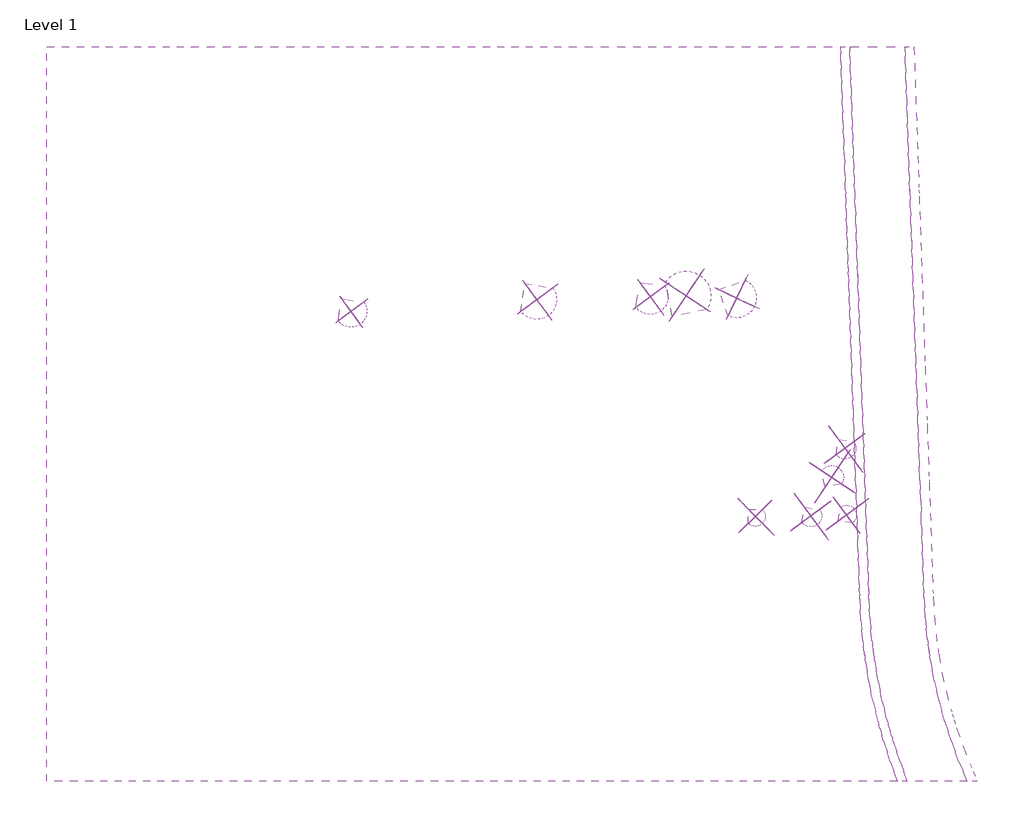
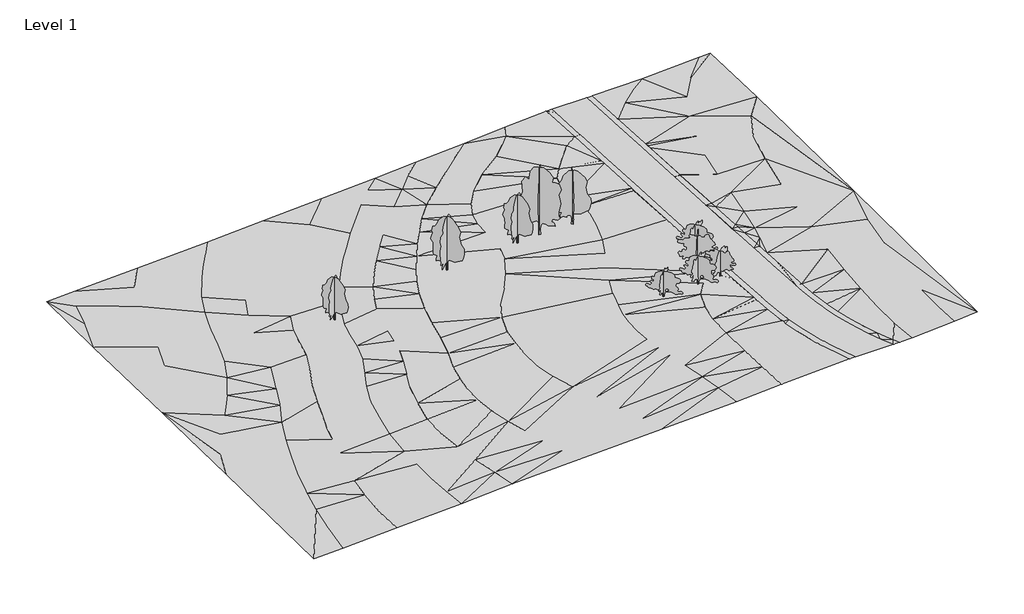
# One storey: 10 geographic elements, 4 proxies.
"""IFC4 building model written with IfcOpenShell, lengths in millimetres."""

from ifc_helpers import new_model, si_unit, origin, place, context, project, spatial, triangles, transform, mapped, element, save
from components import rpc_tree_deciduous1_hawthorn_5_meters_61e68b76, rpc_tree_deciduous1_hawthorn_5_5_meters_b1aece7a, rpc_tree_deciduous1_hawthorn_6_meters_6ab4ff8a, rpc_tree_deciduous1_red_ash_10_meters_1bd7eb3f, rpc_tree_deciduous1_red_ash_12_5_meters_90b8b03f, rpc_tree_deciduous1_red_ash_8_meters_67bd5bca, rpc_tree_deciduous1_red_ash_9_meters_4b385689

model = new_model("IFC4")

# Units and contexts
model_context = context("Model", 3, world=origin())
ifc_project = project(units=[si_unit("LENGTHUNIT", "METRE", prefix="MILLI")], contexts=[model_context])

# Site, building, storey
site = spatial("IfcSite", under=ifc_project)
building = spatial("IfcBuilding", under=site)
storey = spatial("IfcBuildingStorey", under=building, Name="Level 1", Elevation=0.0)

# Proxies
placement = place(None, origin())
element("IfcBuildingElementProxy", 1, Name="Building Element Proxy", at=placement, inside=storey, context=model_context, shape_type="Tessellation", body=[
    triangles([(182117.2744629, 46230.1781616, 47499.9983276), (172249.6721191, 46230.1781616, 47000.0009399), (163630.5331055, 46230.1781616, 46900.0907593), (163630.6075195, 46228.0155029, 46900.1279663), (163630.8679688, 46220.4113159, 46900.2395874), (163881.6991699, 39037.7753174, 47000.0009399), (163881.7549805, 39035.9661255, 47000.0660522), (163885.9035645, 38917.5477722, 47001.4101562), (164154.7243652, 31219.3851013, 47092.5720337), (164176.2300293, 30603.3738647, 47099.9994873), (164200.2657715, 29915.1135498, 47107.5478638), (164494.5919922, 21486.6628967, 47199.9980347), (164498.8708008, 21364.2494385, 47201.3700439), (164806.3683105, 12558.5706482, 47300.0012329), (164846.4402832, 11411.140686, 47351.4957642), (165037.4239746, 5942.0820694, 47427.0911499), (165063.524707, 5194.9823227, 47401.8740845), (165066.9477539, 5096.605188, 47402.7251953), (165071.7102539, 4960.3611786, 47404.2971924), (165133.2878906, 3196.7682449, 47446.6341431), (165248.6296875, -106.211295, 47499.9983276), (165278.4325195, -959.3139736, 47499.9983276), (165286.1901855, -1181.6030943, 47504.207373), (165350.0560547, -3010.286895, 47538.8331665), (165461.3608887, -6197.8402954, 47603.3083008), (165463.2212402, -6251.2963348, 47603.7315308), (165696.7697754, -12939.0369598, 47700.0698364), (165696.8255859, -12940.421759, 47700.0791382), (165696.8813965, -12941.9844543, 47700.0837891), (165698.1092285, -12977.4322906, 47700.5674805), (165721.7170898, -13653.3038269, 47710.8366211), (165836.0356934, -15732.4897064, 47742.5091064), (166033.5120117, -17805.431781, 47774.2606567), (166238.0762695, -19311.1468506, 47797.4452881), (166260.605127, -19477.0971863, 47800.2637207), (166261.7027344, -19485.1699493, 47800.3102295), (166274.1112793, -19576.3888, 47801.2869141), (166313.8297852, -19868.8035095, 47805.0727295), (166676.5239258, -21919.2992798, 47831.7548218), (167121.0363281, -23953.6309204, 47858.3764526), (167646.6228516, -25968.5335144, 47884.8911133), (167814.2033203, -26519.6115051, 47892.1883423), (167986.9741699, -27087.755896, 47900.9273438), (168003.791748, -27143.0153137, 47901.3040649), (168252.4649414, -27960.7770264, 47912.3871094), (168937.5952148, -29927.1686279, 47940.7156128), (169700.8788574, -31864.5526978, 47970.3231079), (170086.2878906, -32738.4551697, 47984.4710815), (170538.3533203, -33763.5135315, 47980.0294922), (170541.1438477, -33769.8247742, 47980.0480957), (172717.2342773, -33769.8247742, 48000.0003662), (180024.0254883, -33769.8247742, 48499.9977539), (184023.1488281, -33769.8247742, 48799.9980469), (184023.1488281, 3211.2077705, 48499.9977539), (184023.1488281, 32392.239093, 48000.0003662), (184023.1488281, 46230.1781616, 47600.0015259), (148453.4874023, 46230.1781616, 46499.9989014), (141358.3669922, 46230.1781616, 46000.0015137), (133069.7101318, 46230.1781616, 45499.9994751), (126039.7020264, 46230.1781616, 45000.0020874), (116711.0900391, 46230.1781616, 44500.0000488), (106679.4325928, 46230.1781616, 43999.9980103), (97056.6432129, 46230.1781616, 43500.0006226), (84931.3554199, 46230.1781616, 42999.998584), (74125.8475342, 46230.1781616, 42500.0011963), (69223.1560913, 46230.1781616, 42350.0010498), (69223.1560913, 32170.7502869, 42500.0011963), (69223.1560913, 11625.752005, 42999.998584), (69223.1560913, -7645.5914612, 43500.0006226), (69223.1560913, -33769.8247742, 43829.9990845), (74292.9768677, -33769.8247742, 43999.9980103), (83601.77146, -33769.8247742, 44500.0000488), (94733.2966553, -33769.8247742, 45000.0020874), (103594.439502, -33769.8247742, 45499.9994751), (115168.7190674, -33769.8247742, 46000.0015137), (129313.4277832, -33769.8247742, 46499.9989014), (142352.1481934, -33769.8247742, 47000.0009399), (150073.6861816, -33769.8247742, 47499.9983276), (161838.698291, -33769.8247742, 47980.0015869), (161841.8608887, -33769.8247742, 47980.0015869), (161836.1124023, -33754.3047913, 47979.7922974), (161810.4581543, -33685.2020325, 47978.8249146), (161054.9693848, -31649.347229, 47947.4361328), (160348.5380859, -29500.7202393, 47918.0146729), (159938.8328613, -28075.6537354, 47900.9040894), (159919.9688965, -28010.008905, 47900.0018188), (159915.838916, -27995.6702454, 47899.8157837), (159909.1416504, -27972.3274841, 47899.5274292), (159723.6087891, -27326.9947815, 47889.6164063), (159181.0372559, -25131.2613647, 47859.1810547), (158721.604834, -22916.6384033, 47831.7222656), (158345.98125, -20686.2722168, 47807.2865479), (158275.4367188, -20143.1076965, 47802.1101196), (158253.2613281, -19972.3739319, 47799.9986206), (158244.6106934, -19905.8059021, 47799.0172852), (158220.4447266, -19719.6800537, 47796.3104736), (158054.6687988, -18443.3335419, 47775.5861572), (157848.1139648, -16191.0093933, 47741.8021729), (157726.5771973, -13932.5007385, 47710.6970947), (157697.4999023, -13099.6934326, 47699.7349731), (157697.3138672, -13094.1472595, 47699.7256714), (157697.1464355, -13089.6114899, 47699.7070679), (157696.9231934, -13083.1281647, 47699.6466064), (157671.6410156, -12359.3072296, 47688.9402832), (157465.5140625, -6456.4826477, 47600.0015259), (157293.6919922, -1536.0914131, 47499.9983276), (157067.5662598, 4939.1229401, 47399.9997803), (156814.3352051, 12190.8372803, 47300.0012329), (156494.4291504, 21351.9292603, 47199.9980347), (156469.0353516, 22078.854657, 47192.1380493), (156198.2611816, 29833.1139038, 47108.5478027), (156170.7837891, 30620.0984253, 47099.9111206), (156170.6907715, 30622.5773438, 47099.9111206), (156170.6163574, 30624.7655823, 47099.9018188), (156170.5233398, 30627.2003174, 47099.8785645), (156170.3187012, 30633.0325195, 47099.8134521), (156169.8350098, 30646.9060913, 47099.6460205), (155906.8092041, 38179.062616, 47000.0009399), (155906.0557617, 38200.6705994, 46999.038208), (155625.7844971, 46226.5876831, 46899.3094116), (155625.6635742, 46230.1781616, 46899.2024414), (139012.2590332, -5680.5497772, 47000.0009399), (138746.1729492, -8022.9195923, 47000.0009399), (122048.280542, -260.3460274, 46499.9989014), (121658.3136475, -3479.4847092, 46499.9989014), (121507.7460938, -6291.8206055, 46499.9989014), (121536.3583008, -10262.2352325, 46499.9989014), (131264.5086914, 16491.2782745, 46499.9989014), (132050.2932861, 19091.5718811, 46499.9989014), (132408.3551514, 21605.0719482, 46499.9989014), (122152.711377, -13713.7594391, 46499.9989014), (110791.7211182, -3624.0514664, 46000.0015137), (110225.5696289, -6685.8029526, 46000.0015137), (109838.1700195, -9294.3036163, 46000.0015137), (109699.6203369, -12781.1919434, 46000.0015137), (110096.5356445, -16262.3713165, 46000.0015137), (117248.5549072, 18574.6836639, 46000.0015137), (118772.7874512, 21243.6916809, 46000.0015137), (147840.9759521, 19642.9940369, 47000.0009399), (147938.0677002, 21869.7627686, 47000.0009399), (155324.3889404, -2894.3494949, 47499.9983276), (153090.7857422, -5188.9169952, 47499.9983276), (151344.3062988, -7474.7989792, 47499.9983276), (111315.7356445, 21255.17005, 45499.9994751), (108873.094043, 16003.3510803, 45499.9994751), (107469.1611328, 10228.9105225, 45499.9994751), (132278.8560791, 23876.7402649, 46499.9989014), (109755.0867187, 18313.0054504, 45499.9994751), (104042.6912109, 18113.5246033, 45000.0020874), (102365.7424072, 12727.590564, 45000.0020874), (100885.3025391, 6397.4147415, 45000.0020874), (97818.1688232, -98.9607928, 45000.0020874), (96368.1736084, -3846.6114281, 45000.0020874), (95423.0778076, -8168.6961594, 45000.0020874), (94576.2922852, -12612.0662201, 45000.0020874), (100985.1941162, -12802.3941376, 45499.9994751), (101832.7888916, -8412.5772034, 45499.9994751), (103010.6704834, -4084.4192963, 45499.9994751), (105432.6807861, 2142.8228382, 45499.9994751), (106970.4101807, 7431.1266449, 45499.9994751), (108126.5907715, 13253.5038116, 45499.9994751), (97370.0008301, 21993.6459045, 44500.0000488), (95923.8007324, 18639.4645935, 44500.0000488), (94421.3994141, 12121.562439, 44500.0000488), (93089.7318604, 8716.3877289, 44500.0000488), (89794.7887939, 832.1720976, 44500.0000488), (88649.3610352, -2656.9648567, 44500.0000488), (87607.4804443, -5919.2160233, 44500.0000488), (86778.6845215, -9004.0219162, 44500.0000488), (85800.7070068, -12593.9173279, 44500.0000488), (99170.2816406, 25031.2232849, 44500.0000488), (100968.302124, 27694.5374634, 44500.0000488), (103145.5459717, 30359.6213013, 44500.0000488), (105479.3570068, 21217.2770142, 45000.0020874), (107065.9857422, 24285.9617981, 45000.0020874), (109159.1230957, 27337.9150452, 45000.0020874), (111306.7594482, 30317.6192139, 45000.0020874), (113191.3979004, 24255.6962036, 45499.9994751), (115081.4499756, 26897.139624, 45499.9994751), (117362.3154053, 29780.8077942, 45499.9994751), (120532.3358643, 24275.520575, 46000.0015137), (122275.0108887, 27077.8727783, 46000.0015137), (124013.2582764, 29560.260791, 46000.0015137), (126149.8441406, 32375.7121948, 46000.0015137), (132420.3637207, 26457.1874084, 46499.9989014), (132921.6633545, 28854.7898987, 46499.9989014), (136112.3244141, 34070.4715393, 46499.9989014), (147622.8962402, 24849.0041748, 47000.0009399), (148254.6995361, 30110.0900208, 47000.0009399), (151839.2993408, 34769.3219055, 47000.0009399), (94097.0843262, 29622.480249, 43999.9980103), (92437.1856445, 25991.1112061, 43999.9980103), (90937.016748, 21670.8958374, 43999.9980103), (89811.7365967, 16848.1216095, 43999.9980103), (88606.3590088, 12577.6264618, 43999.9980103), (86469.8661621, 7312.0798416, 43999.9980103), (87550.4420654, 30561.8973267, 43500.0006226), (86171.5029785, 26508.5052063, 43500.0006226), (85024.6241455, 22198.7450134, 43500.0006226), (81906.7214355, 14084.3868164, 43500.0006226), (78422.0597168, 32362.5013733, 42999.998584), (89098.8126709, 34227.6084595, 43500.0006226), (96179.5990723, 32959.8997925, 43999.9980103), (84844.4304932, 3304.3366791, 43999.9980103), (85059.4871338, -16148.9387054, 44500.0000488), (91257.1181396, 4755.2585815, 44500.0000488), (95118.2312988, 15294.6652679, 44500.0000488), (105280.2714844, 33284.5427673, 44500.0000488), (99341.257251, 3092.1057381, 45000.0020874), (94205.9241943, -17608.8112244, 45000.0020874), (100926.2023682, -16962.8041443, 45499.9994751), (106365.0703857, 4810.6243881, 45499.9994751), (104185.3429688, -1087.7162378, 45499.9994751), (119370.7230469, 32216.8823547, 45499.9994751), (113404.5197754, 32817.1619934, 45000.0020874), (134107.1165771, 31376.6336426, 46499.9989014), (123425.9824951, -17508.4324677, 46499.9989014), (138649.12771, -10283.9397217, 47000.0009399), (139241.9194336, -15749.0666016, 47000.0009399), (139735.5637207, -18273.7857513, 47000.0009399), (138869.4026367, -12920.3543793, 47000.0009399), (149766.300293, -13871.0696045, 47499.9983276), (149683.4867432, -18054.7084259, 47499.9983276), (150219.4354248, -10741.6466675, 47499.9983276), (103065.5229492, 15698.726651, 45000.0020874), (101859.3919189, 9780.2239563, 45000.0020874), (123264.0574951, 3541.9742088, 46499.9989014), (165325.6296387, -959.3139736, 47499.9983276), (164822.6463867, 12558.5706482, 47300.0012329), (164508.2655762, 21486.6628967, 47199.9980347), (164256.783252, 30603.3738647, 47099.9994873), (166417.190918, 973.8398312, 47499.9983276), (167054.5659668, 3567.2546425, 47499.9983276), (167798.967041, 8102.0711563, 47499.9983276), (157377.7612793, -6459.1673676, 47600.0015259), (156410.2482422, 21356.8847717, 47199.9980347), (147175.8351563, 16590.4478027, 47000.0009399), (144598.1692383, 9569.7245956, 47000.0009399), (140476.5138428, 9.1223123, 47000.0009399), (142901.4541992, 6276.7378052, 47000.0009399), (141620.4161133, 3145.7989723, 47000.0009399), (139634.7512695, -3032.7102356, 47000.0009399), (146093.4919189, 12897.7011108, 47000.0009399), (125036.3772217, 6906.2790298, 46499.9989014), (127386.5779541, 9885.000119, 46499.9989014), (129498.7001953, 13044.9607269, 46499.9989014), (115980.8648438, 15569.5775574, 46000.0015137), (114827.1864258, 11958.5491333, 46000.0015137), (113013.1762207, 4032.326255, 46000.0015137), (111999.7031982, 25.9504872, 46000.0015137), (113804.6069824, 8062.4846191, 46000.0015137), (111795.5854248, -23264.5450745, 46000.0015137), (112847.0747314, -26913.4456055, 46000.0015137), (110925.2106445, -19907.4964966, 46000.0015137), (113980.5404297, -30542.1124878, 46000.0015137), (128621.7955811, 35177.9876587, 46000.0015137), (132025.3459717, 38297.8018799, 46000.0015137), (135291.7047363, 41101.3563354, 46000.0015137), (138363.8614014, 43663.0418335, 46000.0015137), (124886.8421631, -21691.7736328, 46499.9989014), (126512.4452637, -26000.0013611, 46499.9989014), (128027.5899902, -30066.3601318, 46499.9989014), (139260.0206543, 37164.6640686, 46499.9989014), (143534.8853027, 40280.4203979, 46499.9989014), (145633.7711426, 42268.8339111, 46499.9989014), (147401.2446533, 44146.7797485, 46499.9989014), (101362.4269043, -21233.1365112, 45499.9994751), (101938.7824219, -25555.7726624, 45499.9994751), (102826.9607666, -29782.351886, 45499.9994751), (121815.0296631, 35066.7990967, 45499.9994751), (124466.2445801, 37828.4840149, 45499.9994751), (127759.3272949, 41142.507312, 45499.9994751), (130300.0745361, 43793.722229, 45499.9994751), (115662.9121582, 35651.1029663, 45000.0020874), (118405.0982666, 38683.8318054, 45000.0020874), (120784.1251465, 41316.5618042, 45000.0020874), (123544.2171387, 44113.4887573, 45000.0020874), (94118.0039795, -21487.9697937, 45000.0020874), (94118.0039795, -25739.507959, 45000.0020874), (94401.8936279, -29995.7760681, 45000.0020874), (107548.5330322, 36003.7302795, 44500.0000488), (109502.6463135, 38426.077771, 44500.0000488), (111856.7630859, 41215.4842529, 44500.0000488), (114529.6976074, 43971.9485596, 44500.0000488), (84208.5995361, -19925.5442322, 44500.0000488), (83773.3051758, -23886.7070984, 44500.0000488), (83406.2485107, -28814.9318665, 44500.0000488), (98298.9859863, 35967.4138916, 43999.9980103), (100568.5404785, 38835.9481018, 43999.9980103), (102765.4668457, 41686.5810791, 43999.9980103), (104871.8592041, 44120.3348511, 43999.9980103), (82819.4843262, -711.7771208, 43999.9980103), (81029.9749512, -5098.2132294, 43999.9980103), (79595.1881104, -9175.1864685, 43999.9980103), (78069.8765625, -13823.7678406, 43999.9980103), (76852.9973511, -18691.2765472, 43999.9980103), (75908.757312, -22903.0299316, 43999.9980103), (75037.1453979, -28096.8803467, 43999.9980103), (91259.6668213, 37907.6396484, 43500.0006226), (93238.69021, 40921.4417358, 43500.0006226), (95272.4451416, 43718.368689, 43500.0006226), (83724.6476807, 18041.7045685, 43500.0006226), (79638.218042, 10107.7109436, 43500.0006226), (76641.2893433, 5749.6653259, 43500.0006226), (73667.3917969, 1803.7749287, 43500.0006226), (71014.711853, -2643.7819405, 43500.0006226), (72866.8220581, 16917.7778229, 42999.998584), (75697.1004639, 22105.0716614, 42999.998584), (77359.9059448, 26855.1677673, 42999.998584), (79979.7227783, 37623.9592896, 42999.998584), (82030.9371094, 42099.6674927, 42999.998584), (72338.7891724, 42761.3154785, 42500.0011963), (71199.9749634, 38248.3862915, 42500.0011963), (140419.6335938, -21740.9008667, 47000.0009399), (141164.4532471, -25583.2430786, 47000.0009399), (141801.3911133, -29329.528363, 47000.0009399), (153735.2208252, 36766.5395325, 47000.0009399), (158240.0714355, -19973.6436218, 47799.9986206), (159917.0853516, -28010.4832947, 47900.0018188), (149653.8327393, -23575.5702759, 47499.9983276), (149896.6458252, -28469.3506348, 47499.9983276), (168587.7188965, 13306.1773407, 47499.9983276), (170039.5744629, 23683.049762, 47499.9983276), (169155.7772461, 18414.9352753, 47499.9983276), (171344.1832031, 28572.5280579, 47499.9983276), (175340.8694824, 38312.6567871, 47499.9983276), (178345.3930664, 42304.6270752, 47499.9983276), (173120.9305664, 33638.9490417, 47499.9983276), (172329.0719238, -29156.199408, 48000.0003662), (172309.3521973, -24024.2173096, 48000.0003662), (172858.1187012, -13206.5334229, 48000.0003662), (172501.4707031, -18717.3458862, 48000.0003662), (173398.9973145, -7374.5498657, 48000.0003662), (174959.5904297, 4539.1915375, 48000.0003662), (175804.5249023, 10811.4924042, 48000.0003662), (174191.1164063, -1059.7963577, 48000.0003662), (177041.4726562, 17767.1248169, 48000.0003662), (178454.8189453, 23723.2077759, 48000.0003662), (180883.861377, 28559.1335266, 48000.0003662), (179805.1365234, -29339.878894, 48499.9977539), (179813.3034668, -24185.4167725, 48499.9977539), (180302.5573242, -18141.6938141, 48499.9977539), (181191.8239746, -10941.3065735, 48499.9977539), (182127.0041016, -4262.3950607, 48499.9977539), (166964.4877441, 42140.6510376, 47000.0009399), (169747.4806641, 44514.3387085, 47000.0009399), (147549.0681885, 27623.1953064, 47000.0009399), (149695.9324951, 32201.0321594, 47000.0009399)], [[70, 71, 298], [298, 72, 287], [72, 298, 71], [286, 287, 279], [298, 287, 297], [70, 298, 297], [70, 297, 69], [296, 297, 286], [294, 295, 170], [296, 205, 295], [286, 285, 296], [69, 296, 295], [297, 287, 286], [69, 297, 296], [287, 72, 280], [69, 295, 294], [286, 278, 285], [286, 279, 278], [278, 279, 267], [210, 278, 267], [279, 287, 280], [280, 268, 279], [72, 73, 280], [285, 278, 210], [170, 155, 169], [210, 170, 205], [170, 169, 294], [170, 295, 205], [210, 211, 155], [267, 211, 210], [154, 155, 156], [210, 155, 170], [205, 285, 210], [169, 155, 154], [280, 73, 269], [205, 296, 285], [294, 169, 293], [69, 306, 68], [69, 294, 306], [293, 168, 292], [306, 294, 293], [204, 292, 166], [306, 293, 305], [168, 293, 169], [305, 293, 292], [68, 305, 304], [305, 68, 306], [305, 292, 304], [68, 304, 303], [303, 204, 196], [204, 303, 304], [206, 196, 204], [200, 303, 196], [292, 204, 304], [307, 68, 303], [167, 292, 168], [206, 204, 166], [166, 167, 153], [154, 157, 153], [153, 158, 152], [153, 152, 166], [154, 153, 167], [167, 168, 154], [166, 152, 206], [196, 165, 195], [196, 206, 165], [165, 206, 209], [195, 165, 164], [165, 151, 164], [151, 165, 209], [209, 152, 213], [164, 151, 226], [206, 152, 209], [194, 195, 164], [209, 159, 151], [166, 292, 167], [169, 154, 168], [195, 200, 196], [156, 155, 211], [254, 267, 268], [268, 267, 279], [253, 268, 269], [269, 268, 280], [255, 269, 74], [268, 253, 252], [73, 74, 269], [254, 268, 252], [156, 135, 157], [156, 211, 135], [157, 135, 134], [158, 153, 157], [136, 131, 135], [135, 127, 134], [211, 136, 135], [254, 131, 136], [267, 254, 136], [133, 157, 134], [254, 252, 217], [136, 211, 267], [261, 253, 255], [255, 253, 269], [75, 76, 262], [315, 261, 262], [255, 75, 261], [255, 74, 75], [262, 261, 75], [218, 127, 131], [127, 135, 131], [131, 254, 217], [221, 218, 131], [219, 217, 260], [261, 260, 253], [261, 220, 260], [131, 217, 221], [252, 260, 217], [134, 127, 133], [262, 76, 316], [253, 260, 252], [127, 123, 126], [213, 159, 209], [213, 158, 132], [213, 132, 159], [132, 158, 133], [132, 133, 126], [212, 159, 250], [158, 157, 133], [159, 212, 151], [150, 226, 146], [151, 212, 160], [226, 151, 160], [226, 150, 164], [160, 251, 146], [161, 146, 248], [146, 161, 150], [160, 146, 226], [160, 212, 249], [207, 164, 150], [159, 132, 250], [152, 158, 213], [132, 125, 250], [125, 132, 126], [125, 122, 124], [227, 124, 242], [250, 124, 249], [125, 124, 250], [125, 126, 122], [249, 124, 227], [251, 244, 248], [251, 249, 227], [251, 248, 146], [251, 160, 249], [247, 244, 245], [239, 244, 227], [239, 245, 244], [244, 247, 248], [227, 244, 251], [161, 248, 145], [245, 241, 246], [249, 212, 250], [133, 127, 126], [246, 137, 245], [246, 240, 128], [157, 154, 156], [225, 150, 161], [308, 307, 200], [200, 307, 303], [199, 302, 194], [302, 200, 195], [192, 193, 162], [308, 200, 302], [194, 302, 195], [193, 199, 194], [307, 308, 67], [309, 308, 199], [193, 198, 199], [198, 193, 192], [197, 198, 192], [199, 198, 309], [308, 302, 199], [201, 309, 198], [193, 194, 163], [67, 308, 309], [162, 193, 163], [163, 207, 225], [149, 148, 174], [175, 174, 144], [163, 149, 162], [225, 149, 163], [207, 150, 225], [162, 149, 174], [192, 171, 191], [192, 162, 171], [162, 174, 171], [191, 171, 172], [172, 175, 173], [172, 171, 174], [208, 173, 176], [191, 172, 203], [175, 172, 174], [203, 172, 173], [145, 149, 225], [163, 194, 207], [164, 207, 194], [191, 197, 192], [313, 67, 201], [67, 309, 201], [310, 197, 202], [197, 310, 201], [197, 191, 202], [310, 202, 311], [198, 197, 201], [313, 201, 310], [66, 313, 312], [313, 66, 67], [313, 310, 312], [66, 312, 65], [65, 311, 64], [311, 65, 312], [299, 64, 311], [310, 311, 312], [311, 202, 299], [299, 203, 288], [203, 299, 202], [288, 208, 289], [288, 203, 173], [290, 289, 281], [299, 288, 300], [191, 203, 202], [300, 288, 289], [301, 63, 64], [300, 289, 301], [63, 301, 290], [301, 64, 300], [291, 62, 63], [282, 291, 290], [283, 62, 291], [291, 63, 290], [289, 290, 301], [289, 208, 281], [299, 300, 64], [208, 288, 173], [176, 173, 175], [307, 67, 68], [144, 174, 148], [148, 145, 247], [246, 138, 137], [137, 247, 245], [144, 247, 137], [148, 247, 144], [225, 161, 145], [178, 137, 138], [177, 176, 179], [175, 144, 178], [176, 175, 178], [177, 281, 208], [137, 178, 144], [138, 179, 178], [179, 180, 177], [178, 179, 176], [179, 181, 180], [215, 177, 180], [179, 138, 181], [177, 208, 176], [181, 128, 129], [128, 181, 138], [130, 147, 181], [147, 188, 185], [186, 185, 347], [130, 181, 129], [129, 128, 243], [181, 147, 182], [214, 182, 183], [214, 180, 182], [182, 147, 183], [270, 214, 183], [186, 347, 216], [347, 187, 216], [184, 185, 186], [183, 185, 184], [147, 185, 183], [216, 256, 186], [130, 129, 237], [182, 180, 181], [128, 138, 246], [215, 180, 214], [281, 282, 290], [282, 281, 215], [214, 274, 215], [214, 270, 274], [282, 274, 283], [215, 274, 282], [281, 177, 215], [275, 274, 270], [284, 61, 62], [284, 283, 275], [61, 284, 276], [284, 62, 283], [275, 271, 276], [277, 276, 271], [276, 277, 61], [275, 276, 284], [283, 274, 275], [61, 277, 60], [271, 275, 270], [282, 283, 291], [271, 184, 256], [184, 271, 270], [216, 257, 256], [256, 184, 186], [257, 187, 258], [271, 256, 272], [187, 257, 216], [272, 256, 257], [60, 272, 273], [60, 277, 272], [272, 257, 273], [60, 273, 59], [59, 258, 259], [258, 59, 273], [263, 259, 258], [59, 259, 58], [257, 258, 273], [263, 258, 187], [272, 277, 271], [183, 184, 270], [147, 130, 188], [149, 145, 148], [145, 248, 247], [218, 123, 127], [315, 316, 321], [315, 262, 316], [77, 78, 321], [321, 90, 320], [77, 321, 316], [314, 261, 315], [315, 321, 320], [223, 314, 320], [320, 314, 315], [318, 94, 95], [92, 318, 320], [320, 318, 223], [318, 93, 94], [95, 96, 318], [321, 78, 84], [314, 220, 261], [87, 319, 86], [319, 87, 88], [319, 85, 86], [319, 321, 85], [321, 84, 85], [92, 93, 318], [91, 92, 320], [89, 90, 321], [88, 89, 319], [91, 320, 90], [319, 89, 321], [78, 83, 84], [221, 219, 222], [219, 221, 217], [223, 222, 219], [220, 314, 223], [104, 224, 222], [223, 219, 220], [260, 220, 219], [221, 222, 224], [122, 143, 242], [224, 122, 123], [239, 227, 242], [242, 124, 122], [143, 235, 142], [224, 104, 143], [242, 143, 239], [224, 143, 122], [218, 224, 123], [142, 239, 143], [222, 223, 98], [224, 218, 221], [101, 222, 100], [97, 98, 223], [96, 97, 223], [99, 222, 98], [235, 104, 105], [235, 143, 104], [142, 235, 141], [104, 222, 103], [103, 222, 102], [101, 102, 222], [100, 222, 99], [318, 96, 223], [105, 141, 235], [316, 76, 77], [83, 78, 82], [81, 79, 80], [79, 81, 82], [78, 79, 82], [330, 42, 43], [330, 41, 42], [329, 44, 45], [43, 44, 330], [329, 45, 46], [49, 50, 51], [340, 51, 52], [51, 48, 49], [340, 52, 53], [44, 329, 330], [329, 47, 48], [329, 46, 47], [329, 340, 341], [329, 48, 51], [341, 340, 53], [329, 341, 330], [51, 340, 329], [330, 341, 332], [53, 342, 341], [41, 330, 40], [331, 31, 32], [30, 31, 331], [32, 33, 332], [332, 33, 34], [333, 26, 27], [331, 27, 28], [29, 30, 331], [28, 29, 331], [26, 333, 25], [35, 332, 34], [332, 36, 37], [39, 332, 38], [38, 332, 37], [39, 40, 330], [331, 343, 333], [342, 331, 332], [333, 27, 331], [331, 32, 332], [53, 343, 342], [343, 53, 344], [343, 344, 333], [342, 343, 331], [330, 332, 39], [25, 333, 24], [341, 342, 332], [35, 36, 332], [53, 54, 344], [333, 344, 336], [241, 240, 246], [141, 240, 241], [128, 238, 243], [107, 238, 240], [108, 243, 238], [129, 243, 237], [241, 239, 142], [240, 238, 128], [139, 130, 237], [188, 347, 185], [140, 188, 130], [130, 139, 140], [140, 139, 236], [347, 188, 111], [237, 236, 139], [110, 188, 140], [243, 108, 237], [189, 187, 347], [236, 108, 109], [237, 108, 236], [108, 238, 107], [106, 107, 141], [105, 106, 141], [112, 348, 111], [111, 348, 189], [348, 112, 113], [347, 111, 189], [188, 110, 111], [110, 236, 109], [236, 110, 140], [240, 141, 107], [142, 141, 241], [189, 263, 187], [264, 58, 259], [264, 263, 348], [190, 117, 317], [117, 190, 348], [264, 190, 265], [348, 190, 264], [263, 189, 348], [265, 190, 317], [58, 265, 266], [265, 58, 264], [265, 317, 266], [58, 266, 57], [57, 120, 121], [120, 57, 266], [266, 119, 120], [266, 317, 119], [264, 259, 263], [118, 317, 117], [116, 117, 348], [116, 348, 115], [317, 118, 119], [346, 3, 4], [345, 5, 6], [345, 6, 7], [346, 4, 5], [115, 348, 114], [348, 113, 114], [245, 239, 241], [19, 233, 18], [21, 232, 20], [233, 19, 20], [22, 228, 21], [14, 15, 229], [322, 229, 15], [13, 14, 229], [233, 16, 17], [15, 16, 234], [18, 233, 17], [22, 23, 228], [23, 232, 228], [232, 23, 24], [233, 232, 336], [336, 232, 24], [54, 336, 344], [334, 336, 54], [24, 333, 336], [232, 233, 20], [322, 15, 234], [234, 233, 334], [322, 234, 335], [16, 233, 234], [54, 335, 334], [335, 54, 337], [335, 337, 322], [334, 335, 234], [233, 336, 334], [324, 229, 322], [54, 338, 337], [228, 232, 21], [324, 322, 337], [11, 12, 230], [13, 324, 230], [324, 13, 229], [11, 230, 323], [13, 230, 12], [231, 11, 325], [328, 345, 8], [231, 9, 10], [326, 346, 345], [231, 325, 9], [345, 346, 5], [8, 9, 328], [10, 11, 231], [8, 345, 7], [324, 323, 230], [328, 9, 325], [325, 323, 338], [54, 339, 338], [339, 54, 55], [325, 339, 328], [338, 339, 325], [324, 337, 323], [328, 339, 55], [346, 326, 2], [345, 328, 326], [328, 55, 326], [2, 326, 327], [327, 56, 1], [327, 326, 55], [327, 1, 2], [56, 327, 55], [325, 11, 323], [337, 338, 323], [346, 2, 3], [122, 126, 123]], closed=False),
])
element("IfcBuildingElementProxy", 2, Name="Building Element Proxy", at=placement, inside=storey, context=model_context, shape_type="Tessellation", body=[
    triangles([(162611.5999512, 46230.1781616, 46899.9977417), (156629.8069336, 46230.1781616, 46899.9977417), (156626.2722656, 46230.1781616, 46899.9977417), (156663.014209, 45178.1307495, 46913.3039063), (156902.3484375, 38324.3328186, 47000.0009399), (156903.4460449, 38292.9951965, 47000.3776611), (157174.1644043, 30540.6683899, 47099.9994873), (157492.3217285, 21429.8221802, 47198.5841675), (157496.8237793, 21300.741687, 47199.9980347), (157501.288623, 21172.9704163, 47201.4305054), (157813.0463379, 12245.569986, 47300.0012329), (157814.1811523, 12212.8940735, 47300.4384155), (158065.5518555, 5014.2799805, 47399.9997803), (158066.5192383, 4986.8467712, 47400.4509155), (158291.7147949, -1462.1401131, 47499.9983276), (158291.789209, -1463.9043949, 47500.0355347), (158465.0623535, -6425.8281235, 47600.0015259), (158688.5091797, -12824.404422, 47696.2003052), (158697.3272461, -13077.1471344, 47700.0000732), (158698.8527344, -13120.7351715, 47700.6325928), (158725.9766602, -13897.6005432, 47712.0086426), (158848.6668457, -16162.041394, 47745.2298706), (159058.2726563, -18420.0954254, 47778.4790039), (159201.9476074, -19510.5277039, 47794.5942993), (159247.5634277, -19856.6600647, 47799.6870117), (159250.2981445, -19877.389032, 47799.9986206), (159287.0400879, -20156.2975891, 47803.4867798), (159354.5150391, -20668.424469, 47809.8305786), (159736.9289063, -22903.7112854, 47837.7079468), (160204.9747559, -25122.647937, 47865.5527588), (160680.4248047, -27013.6325134, 47889.4396729), (160757.9456543, -27321.9602051, 47893.313855), (160892.114209, -27780.3205994, 47899.0809448), (160912.5222656, -27850.062854, 47900.0018188), (161209.3227539, -28864.0335205, 47913.6335449), (161395.0230469, -29498.3971252, 47922.2144165), (162115.2581543, -31648.7449402, 47951.3056641), (162917.6091797, -33769.8247742, 47980.0015869), (162950.4443848, -33769.8247742, 47980.0015869), (169440.4854492, -33769.8247742, 47980.0015869), (168531.9455566, -31649.7076721, 47953.9985229), (167716.5162598, -29492.0672791, 47927.5396729), (166995.7416504, -27300.9917175, 47900.6668945), (166985.9003906, -27266.0287354, 47900.2390137), (166980.933252, -27248.3670227, 47900.0018188), (166370.9611816, -25080.6295715, 47871.459375), (165843.4026855, -22835.1852356, 47842.0286133), (165414.0335449, -20568.9142639, 47812.4583252), (165305.8541016, -19821.3296631, 47802.7426392), (165275.1955078, -19609.535614, 47799.9986206), (165263.5311035, -19528.9498352, 47798.7568359), (165233.7282715, -19322.9240387, 47795.6686523), (165083.6723145, -18286.1070923, 47780.088208), (164852.9701172, -15991.0878754, 47745.6624023), (164722.317627, -13688.2040222, 47711.185437), (164697.0912598, -12965.744632, 47700.3814453), (164696.198291, -12940.3519958, 47700.0000732), (164695.8820313, -12931.2746429, 47699.8651978), (164462.259082, -6240.7202362, 47600.0015259), (164450.1295898, -5893.4687576, 47593.4251831), (164350.3589355, -3036.7704529, 47539.3354614), (164277.9540527, -963.2869869, 47499.9983276), (164276.1867188, -912.3313036, 47499.2123291), (164177.3834473, 1916.6539398, 47452.8430664), (164068.2924316, 5040.712088, 47402.3717285), (164064.8507813, 5139.4525726, 47399.9997803), (164063.4183105, 5180.247757, 47401.3764404), (163867.8209473, 10781.3186646, 47323.9532593), (163805.7968262, 12557.6927948, 47300.0012329), (163804.9224609, 12582.7214996, 47299.7221802), (163494.0019043, 21486.2210632, 47199.9980347), (163179.9001465, 30481.0278442, 47101.315686), (163175.6585449, 30602.539032, 47099.9994873), (163172.0494629, 30705.9303955, 47098.6693359), (162896.5686035, 38594.6744568, 47003.6286255), (162886.8761719, 38872.3109985, 47000.2799927), (162886.0390137, 38896.1211731, 47000.0009399), (162634.4450684, 46100.6093262, 46901.8022827), (162629.9244141, 46230.1781616, 46899.9977417), (158701.7734863, -13077.0762085, 47700.0000732), (164694.9518555, -12940.3519958, 47700.0000732), (164388.5147461, -6240.7202362, 47600.0015259), (164011.2726563, 5139.4525726, 47399.9997803), (162882.9880371, 38895.6909668, 47000.0009399), (165258.1174805, -19611.8354736, 47799.9986206)], [[54, 22, 23], [24, 53, 23], [22, 55, 21], [24, 25, 52], [18, 19, 80], [80, 20, 56], [21, 56, 20], [20, 80, 19], [80, 81, 18], [26, 52, 25], [33, 46, 32], [43, 35, 36], [34, 46, 33], [34, 35, 45], [85, 27, 28], [28, 29, 48], [31, 32, 46], [30, 47, 29], [46, 30, 31], [52, 26, 27], [17, 18, 82], [5, 6, 75], [7, 8, 72], [6, 7, 74], [9, 71, 8], [2, 3, 4], [84, 4, 5], [4, 1, 2], [5, 75, 84], [71, 9, 10], [68, 12, 13], [15, 64, 14], [83, 13, 14], [17, 61, 16], [1, 78, 79], [4, 84, 78], [70, 10, 11], [78, 84, 77], [78, 1, 4], [77, 84, 76], [69, 11, 12], [15, 16, 62], [37, 42, 36], [48, 49, 28], [52, 85, 51], [52, 27, 85], [51, 85, 50], [42, 37, 39], [24, 52, 53], [56, 81, 80], [55, 22, 54], [54, 23, 53], [55, 56, 21], [81, 56, 57], [44, 35, 43], [41, 42, 39], [40, 41, 39], [36, 42, 43], [49, 50, 85], [49, 85, 28], [47, 30, 46], [46, 34, 45], [29, 47, 48], [45, 35, 44], [11, 69, 70], [68, 83, 67], [68, 69, 12], [67, 83, 66], [10, 70, 71], [75, 6, 74], [84, 75, 76], [74, 7, 73], [73, 7, 72], [71, 72, 8], [68, 13, 83], [60, 61, 17], [60, 82, 59], [82, 58, 59], [82, 18, 58], [58, 81, 57], [81, 58, 18], [65, 66, 83], [65, 83, 14], [14, 64, 65], [62, 63, 15], [61, 62, 16], [15, 63, 64], [60, 17, 82], [39, 37, 38]], closed=False),
])
element("IfcBuildingElementProxy", 3, Name="Building Element Proxy", at=placement, inside=storey, context=model_context, shape_type="Tessellation", body=[
    triangles([(163622.9056641, 46230.1781616, 46899.9977417), (162629.9244141, 46230.1781616, 46899.9977417), (162634.4450684, 46100.6093262, 46901.8022827), (162886.0390137, 38896.1211731, 47000.0009399), (162886.8761719, 38872.3109985, 47000.2799927), (162896.5686035, 38594.6744568, 47003.6286255), (163172.0494629, 30705.9303955, 47098.6693359), (163175.6585449, 30602.539032, 47099.9994873), (163179.9001465, 30481.0278442, 47101.315686), (163494.0019043, 21486.2210632, 47199.9980347), (163804.9224609, 12582.7214996, 47299.7221802), (163805.7968262, 12557.6927948, 47300.0012329), (163867.8209473, 10781.3186646, 47323.9532593), (164063.4183105, 5180.247757, 47401.3764404), (164064.8507813, 5139.4525726, 47399.9997803), (164068.2924316, 5040.712088, 47402.3717285), (164177.3834473, 1916.6539398, 47452.8430664), (164276.1867188, -912.3313036, 47499.2123291), (164277.9540527, -963.2869869, 47499.9983276), (164350.3589355, -3036.7704529, 47539.3354614), (164450.1295898, -5893.4687576, 47593.4251831), (164462.259082, -6240.7202362, 47600.0015259), (164695.8820313, -12931.2746429, 47699.8651978), (164696.198291, -12940.3519958, 47700.0000732), (164697.0912598, -12965.744632, 47700.3814453), (164722.317627, -13688.2040222, 47711.185437), (164852.9701172, -15991.0878754, 47745.6624023), (165083.6723145, -18286.1070923, 47780.088208), (165233.7282715, -19322.9240387, 47795.6686523), (165263.5311035, -19528.9498352, 47798.7568359), (165275.1955078, -19609.535614, 47799.9986206), (165305.8541016, -19821.3296631, 47802.7426392), (165414.0335449, -20568.9142639, 47812.4583252), (165843.4026855, -22835.1852356, 47842.0286133), (166370.9611816, -25080.6295715, 47871.459375), (166980.933252, -27248.3670227, 47900.0018188), (166985.9003906, -27266.0287354, 47900.2390137), (166995.7416504, -27300.9917175, 47900.6668945), (167716.5162598, -29492.0672791, 47927.5396729), (168531.9455566, -31649.7076721, 47953.9985229), (169440.4854492, -33769.8247742, 47980.0015869), (169440.5784668, -33769.8247742, 47980.0015869), (170535.8976563, -33769.8247742, 47980.0015869), (170541.1438477, -33769.8247742, 47980.0480957), (170538.3533203, -33763.5135315, 47980.0294922), (170086.2878906, -32738.4551697, 47984.4710815), (169700.8788574, -31864.5526978, 47970.3231079), (168937.5952148, -29927.1686279, 47940.7156128), (168252.4649414, -27960.7770264, 47912.3871094), (168003.791748, -27143.0153137, 47901.3040649), (167986.9741699, -27087.755896, 47900.9273438), (167814.2033203, -26519.6115051, 47892.1883423), (167646.6228516, -25968.5335144, 47884.8911133), (167121.0363281, -23953.6309204, 47858.3764526), (166676.5239258, -21919.2992798, 47831.7548218), (166313.8297852, -19868.8035095, 47805.0727295), (166274.1112793, -19576.3888, 47801.2869141), (166261.7027344, -19485.1699493, 47800.3102295), (166260.605127, -19477.0971863, 47800.2637207), (166238.0762695, -19311.1468506, 47797.4452881), (166033.5120117, -17805.431781, 47774.2606567), (165836.0356934, -15732.4897064, 47742.5091064), (165721.7170898, -13653.3038269, 47710.8366211), (165698.1092285, -12977.4322906, 47700.5674805), (165696.8813965, -12941.9844543, 47700.0837891), (165696.8255859, -12940.421759, 47700.0791382), (165696.7697754, -12939.0369598, 47700.0698364), (165463.2212402, -6251.2963348, 47603.7315308), (165461.3608887, -6197.8402954, 47603.3083008), (165350.0560547, -3010.286895, 47538.8331665), (165286.1901855, -1181.6030943, 47504.207373), (165278.4325195, -959.3139736, 47499.9983276), (165248.6296875, -106.211295, 47499.9983276), (165133.2878906, 3196.7682449, 47446.6341431), (165071.7102539, 4960.3611786, 47404.2971924), (165066.9477539, 5096.605188, 47402.7251953), (165063.524707, 5194.9823227, 47401.8740845), (165037.4239746, 5942.0820694, 47427.0911499), (164846.4402832, 11411.140686, 47351.4957642), (164806.3683105, 12558.5706482, 47300.0012329), (164498.8708008, 21364.2494385, 47201.3700439), (164494.5919922, 21486.6628967, 47199.9980347), (164200.2657715, 29915.1135498, 47107.5478638), (164176.2300293, 30603.3738647, 47099.9994873), (164154.7243652, 31219.3851013, 47092.5720337), (163885.9035645, 38917.5477722, 47001.4101562), (163881.7549805, 39035.9661255, 47000.0660522), (163881.6991699, 39037.7753174, 47000.0009399), (163630.8679688, 46220.4113159, 46900.2395874), (163630.6075195, 46228.0155029, 46900.1279663), (163630.5331055, 46230.1781616, 46900.0907593), (164325.6348633, -959.3139736, 47499.9983276), (163822.6516113, 12558.5706482, 47300.0012329), (163508.2708008, 21486.6628967, 47199.9980347), (163256.769873, 30603.3738647, 47099.9994873), (165694.9466309, -12940.3519958, 47700.0000732), (165388.5095215, -6240.7202362, 47600.0015259), (165011.2674316, 5139.4525726, 47399.9997803), (163880.582959, 39036.6544556, 47000.0009399), (166252.307959, -19478.1099152, 47799.9986206), (166997.8996582, -27246.68573, 47900.0018188), (167946.5859375, -27116.389032, 47900.0018188)], [[18, 19, 92], [92, 19, 20], [17, 18, 73], [20, 71, 92], [73, 18, 92], [21, 70, 20], [78, 13, 14], [93, 12, 13], [74, 75, 16], [98, 15, 16], [98, 14, 15], [17, 74, 16], [24, 96, 23], [25, 96, 24], [62, 26, 27], [25, 26, 64], [97, 22, 23], [93, 13, 79], [98, 78, 14], [13, 78, 79], [77, 98, 76], [78, 98, 77], [76, 98, 75], [16, 75, 98], [61, 27, 28], [21, 22, 97], [93, 79, 80], [95, 7, 8], [95, 8, 9], [95, 9, 83], [10, 83, 9], [94, 10, 81], [95, 85, 7], [6, 7, 85], [1, 2, 3], [89, 1, 3], [86, 4, 5], [91, 1, 90], [86, 5, 6], [3, 4, 88], [94, 83, 10], [95, 83, 84], [93, 11, 12], [11, 93, 80], [84, 85, 95], [83, 94, 82], [82, 94, 81], [80, 81, 11], [89, 90, 1], [99, 88, 4], [3, 88, 89], [99, 4, 86], [88, 99, 87], [87, 99, 86], [85, 86, 6], [10, 11, 81], [101, 36, 37], [101, 37, 38], [101, 102, 52], [38, 102, 101], [49, 38, 39], [36, 101, 53], [53, 101, 52], [55, 33, 34], [54, 34, 35], [54, 55, 34], [53, 54, 35], [35, 36, 53], [33, 55, 56], [41, 42, 46], [46, 42, 45], [41, 46, 40], [43, 44, 45], [43, 45, 42], [102, 50, 51], [50, 102, 49], [102, 51, 52], [40, 47, 48], [47, 40, 46], [49, 39, 48], [49, 102, 38], [40, 48, 39], [26, 63, 64], [30, 60, 29], [67, 23, 96], [57, 31, 32], [23, 67, 68], [31, 100, 30], [97, 23, 68], [17, 73, 74], [73, 92, 72], [69, 70, 21], [69, 97, 68], [71, 20, 70], [71, 72, 92], [69, 21, 97], [60, 28, 29], [60, 100, 59], [61, 28, 60], [59, 100, 58], [57, 58, 100], [57, 100, 31], [32, 56, 57], [66, 67, 96], [66, 96, 65], [62, 27, 61], [64, 96, 25], [63, 26, 62], [96, 64, 65], [60, 30, 100], [32, 33, 56]], closed=False),
])
element("IfcBuildingElementProxy", 4, Name="Building Element Proxy", at=placement, inside=storey, context=model_context, shape_type="Tessellation", body=[
    triangles([(155639.9789795, 46230.1781616, 46899.9977417), (155625.6635742, 46230.1781616, 46899.2024414), (155625.7844971, 46226.5876831, 46899.3094116), (155906.0557617, 38200.6705994, 46999.038208), (155906.8092041, 38179.062616, 47000.0009399), (156169.8350098, 30646.9060913, 47099.6460205), (156170.3187012, 30633.0325195, 47099.8134521), (156170.5233398, 30627.2003174, 47099.8785645), (156170.6163574, 30624.7655823, 47099.9018188), (156170.6907715, 30622.5773438, 47099.9111206), (156170.7837891, 30620.0984253, 47099.9111206), (156198.2611816, 29833.1139038, 47108.5478027), (156469.0353516, 22078.854657, 47192.1380493), (156494.4291504, 21351.9292603, 47199.9980347), (156814.3352051, 12190.8372803, 47300.0012329), (157067.5662598, 4939.1229401, 47399.9997803), (157293.6919922, -1536.0914131, 47499.9983276), (157465.5140625, -6456.4826477, 47600.0015259), (157671.6410156, -12359.3072296, 47688.9402832), (157696.9231934, -13083.1281647, 47699.6466064), (157697.1464355, -13089.6114899, 47699.7070679), (157697.3138672, -13094.1472595, 47699.7256714), (157697.4999023, -13099.6934326, 47699.7349731), (157726.5771973, -13932.5007385, 47710.6970947), (157848.1139648, -16191.0093933, 47741.8021729), (158054.6687988, -18443.3335419, 47775.5861572), (158220.4447266, -19719.6800537, 47796.3104736), (158244.6106934, -19905.8059021, 47799.0172852), (158253.2613281, -19972.3739319, 47799.9986206), (158275.4367188, -20143.1076965, 47802.1101196), (158345.98125, -20686.2722168, 47807.2865479), (158721.604834, -22916.6384033, 47831.7222656), (159181.0372559, -25131.2613647, 47859.1810547), (159723.6087891, -27326.9947815, 47889.6164063), (159909.1416504, -27972.3274841, 47899.5274292), (159915.838916, -27995.6702454, 47899.8157837), (159919.9688965, -28010.008905, 47900.0018188), (159938.8328613, -28075.6537354, 47900.9040894), (160348.5380859, -29500.7202393, 47918.0146729), (161054.9693848, -31649.347229, 47947.4361328), (161810.4581543, -33685.2020325, 47978.8249146), (161836.1124023, -33754.3047913, 47979.7922974), (161841.8608887, -33769.8247742, 47980.0015869), (162917.6091797, -33769.8247742, 47980.0015869), (162115.2581543, -31648.7449402, 47951.3056641), (161395.0230469, -29498.3971252, 47922.2144165), (161209.3227539, -28864.0335205, 47913.6335449), (160912.5222656, -27850.062854, 47900.0018188), (160892.114209, -27780.3205994, 47899.0809448), (160757.9456543, -27321.9602051, 47893.313855), (160680.4248047, -27013.6325134, 47889.4396729), (160204.9747559, -25122.647937, 47865.5527588), (159736.9289063, -22903.7112854, 47837.7079468), (159354.5150391, -20668.424469, 47809.8305786), (159287.0400879, -20156.2975891, 47803.4867798), (159250.2981445, -19877.389032, 47799.9986206), (159247.5634277, -19856.6600647, 47799.6870117), (159201.9476074, -19510.5277039, 47794.5942993), (159058.2726563, -18420.0954254, 47778.4790039), (158848.6668457, -16162.041394, 47745.2298706), (158725.9766602, -13897.6005432, 47712.0086426), (158698.8527344, -13120.7351715, 47700.6325928), (158697.3272461, -13077.1471344, 47700.0000732), (158688.5091797, -12824.404422, 47696.2003052), (158465.0623535, -6425.8281235, 47600.0015259), (158291.789209, -1463.9043949, 47500.0355347), (158291.7147949, -1462.1401131, 47499.9983276), (158066.5192383, 4986.8467712, 47400.4509155), (158065.5518555, 5014.2799805, 47399.9997803), (157814.1811523, 12212.8940735, 47300.4384155), (157813.0463379, 12245.569986, 47300.0012329), (157501.288623, 21172.9704163, 47201.4305054), (157496.8237793, 21300.741687, 47199.9980347), (157492.3217285, 21429.8221802, 47198.5841675), (157174.1644043, 30540.6683899, 47099.9994873), (156903.4460449, 38292.9951965, 47000.3776611), (156902.3484375, 38324.3328186, 47000.0009399), (156663.014209, 45178.1307495, 46913.3039063), (156626.2722656, 46230.1781616, 46899.9977417), (158352.6227051, -6429.3418625, 47600.0015259), (158289.7428223, -1462.3050739, 47499.9983276), (158038.2418945, 5013.7050156, 47399.9997803), (157786.7409668, 12244.2014648, 47300.0012329), (157409.498877, 21298.0395264, 47199.9980347), (157158.0165527, 30540.5009583, 47099.9994873), (157708.1969238, -13093.0798828, 47700.0000732), (156178.4484375, 30625.2748535, 47099.9994873), (156879.3544922, 38322.1376038, 47000.0009399), (159230.5412109, -19878.2633972, 47799.9986206), (160851.6143555, -27856.1043457, 47900.0018188), (155922.4268555, 38189.2247864, 47000.0009399)], [[16, 68, 82], [17, 18, 80], [81, 16, 17], [20, 86, 19], [72, 14, 15], [83, 72, 15], [84, 72, 73], [72, 84, 14], [14, 84, 74], [82, 15, 16], [74, 84, 73], [20, 21, 86], [86, 22, 23], [62, 86, 24], [23, 24, 86], [61, 24, 25], [83, 70, 71], [82, 70, 15], [83, 71, 72], [18, 19, 80], [70, 82, 69], [70, 83, 15], [69, 82, 68], [64, 19, 86], [60, 25, 26], [21, 22, 86], [6, 76, 5], [8, 87, 7], [87, 6, 7], [8, 9, 87], [2, 3, 1], [78, 1, 3], [4, 5, 91], [76, 91, 5], [78, 3, 4], [88, 4, 91], [9, 10, 87], [12, 87, 11], [75, 12, 13], [12, 75, 85], [75, 13, 74], [87, 12, 85], [13, 14, 74], [76, 85, 75], [79, 1, 78], [88, 78, 4], [6, 87, 85], [88, 76, 77], [91, 76, 88], [88, 77, 78], [85, 76, 6], [87, 10, 11], [35, 50, 34], [37, 90, 36], [35, 36, 90], [37, 38, 90], [53, 32, 33], [52, 33, 34], [52, 53, 33], [51, 52, 34], [51, 34, 50], [32, 53, 54], [38, 39, 47], [45, 40, 41], [44, 41, 42], [44, 45, 41], [44, 42, 43], [40, 45, 46], [50, 90, 49], [50, 35, 90], [49, 90, 48], [47, 48, 90], [90, 38, 47], [46, 47, 39], [40, 46, 39], [65, 19, 64], [29, 89, 28], [89, 27, 28], [89, 29, 30], [68, 81, 67], [68, 16, 81], [67, 81, 66], [66, 80, 65], [66, 81, 17], [65, 80, 19], [66, 17, 80], [30, 31, 55], [59, 26, 27], [58, 89, 57], [58, 59, 27], [57, 89, 56], [55, 56, 89], [55, 89, 30], [31, 54, 55], [64, 86, 63], [63, 86, 62], [61, 25, 60], [60, 26, 59], [24, 61, 62], [58, 27, 89], [31, 32, 54]], closed=False),
])

# Geographic elements
rpc_tree_deciduous1_hawthorn_5_meters_shape = rpc_tree_deciduous1_hawthorn_5_meters_61e68b76(model_context)
element("IfcGeographicElement", 5, ObjectType="RPC Tree - Deciduous1 : Hawthorn - 5 Meters", at=placement, inside=storey, context=model_context, shape_type="MappedRepresentation", body=[
    mapped(rpc_tree_deciduous1_hawthorn_5_meters_shape, transform((146380.1519275, -4937.1850259, 47065.3232456), x_axis=(0.7140258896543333, 0.7001192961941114, 0.0), y_axis=(-0.7001192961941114, 0.7140258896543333, 0.0), z_axis=(0.0, 0.0, 1.0))),
])
element("IfcGeographicElement", 6, ObjectType="RPC Tree - Deciduous1 : Hawthorn - 5 Meters", at=placement, inside=storey, context=model_context, shape_type="MappedRepresentation", body=[
    mapped(rpc_tree_deciduous1_hawthorn_5_meters_shape, transform((156279.5472869, -4788.9570995, 47356.1335034), x_axis=(-0.5939325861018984, 0.804514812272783, 0.0), y_axis=(-0.804514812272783, -0.5939325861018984, 0.0), z_axis=(0.0, 0.0, 1.0))),
])
rpc_tree_deciduous1_hawthorn_5_5_meters_shape = rpc_tree_deciduous1_hawthorn_5_5_meters_b1aece7a(model_context)
element("IfcGeographicElement", 7, ObjectType="RPC Tree - Deciduous1 : Hawthorn - 5.5 Meters", at=placement, inside=storey, context=model_context, shape_type="MappedRepresentation", body=[
    mapped(rpc_tree_deciduous1_hawthorn_5_5_meters_shape, transform((156126.4255584, 2489.9186067, 47229.2358215), x_axis=(0.8045148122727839, 0.5939325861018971, 0.0), y_axis=(-0.5939325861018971, 0.8045148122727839, 0.0), z_axis=(0.0, 0.0, 1.0))),
])
element("IfcGeographicElement", 8, ObjectType="RPC Tree - Deciduous1 : Hawthorn - 5.5 Meters", at=placement, inside=storey, context=model_context, shape_type="MappedRepresentation", body=[
    mapped(rpc_tree_deciduous1_hawthorn_5_5_meters_shape, transform((152400.7668124, -4886.2300694, 47272.6295557), x_axis=(0.8045148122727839, 0.5939325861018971, 0.0), y_axis=(-0.5939325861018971, 0.8045148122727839, 0.0), z_axis=(0.0, 0.0, 1.0))),
])
rpc_tree_deciduous1_hawthorn_6_meters_shape = rpc_tree_deciduous1_hawthorn_6_meters_6ab4ff8a(model_context)
element("IfcGeographicElement", 9, ObjectType="RPC Tree - Deciduous1 : Hawthorn - 6 Meters", at=placement, inside=storey, context=model_context, shape_type="MappedRepresentation", body=[
    mapped(rpc_tree_deciduous1_hawthorn_6_meters_shape, transform((154671.4745855, -693.3372213, 47246.2057101), x_axis=(-0.8332743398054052, 0.5528597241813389, 0.0), y_axis=(-0.5528597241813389, -0.8332743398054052, 0.0), z_axis=(0.0, 0.0, 1.0))),
])
rpc_tree_deciduous1_red_ash_10_meters_shape = rpc_tree_deciduous1_red_ash_10_meters_1bd7eb3f(model_context)
element("IfcGeographicElement", 10, ObjectType="RPC Tree - Deciduous1 : Red Ash - 10 Meters", at=placement, inside=storey, context=model_context, shape_type="MappedRepresentation", body=[
    mapped(rpc_tree_deciduous1_red_ash_10_meters_shape, transform((122578.2312555, 18663.5450337, 45976.6068777), x_axis=(0.8045148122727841, 0.5939325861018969, 0.0), y_axis=(-0.5939325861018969, 0.8045148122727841, 0.0), z_axis=(0.0, 0.0, 1.0))),
])
element("IfcGeographicElement", 11, ObjectType="RPC Tree - Deciduous1 : Red Ash - 10 Meters", at=placement, inside=storey, context=model_context, shape_type="MappedRepresentation", body=[
    mapped(rpc_tree_deciduous1_red_ash_10_meters_shape, transform((144327.6199498, 18835.2000132, 46707.0046458), x_axis=(0.4315099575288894, 0.9021081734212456, 0.0), y_axis=(-0.9021081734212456, 0.4315099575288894, 0.0), z_axis=(0.0, 0.0, 1.0))),
])
rpc_tree_deciduous1_red_ash_12_5_meters_shape = rpc_tree_deciduous1_red_ash_12_5_meters_90b8b03f(model_context)
element("IfcGeographicElement", 12, ObjectType="RPC Tree - Deciduous1 : Red Ash - 12,5 Meters", at=placement, inside=storey, context=model_context, shape_type="MappedRepresentation", body=[
    mapped(rpc_tree_deciduous1_red_ash_12_5_meters_shape, transform((138833.1236644, 19081.188974, 46519.1053667), x_axis=(-0.833274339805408, 0.5528597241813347, 0.0), y_axis=(-0.5528597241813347, -0.833274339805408, 0.0), z_axis=(0.0, 0.0, 1.0))),
])
rpc_tree_deciduous1_red_ash_8_meters_shape = rpc_tree_deciduous1_red_ash_8_meters_67bd5bca(model_context)
element("IfcGeographicElement", 13, ObjectType="RPC Tree - Deciduous1 : Red Ash - 8 Meters", at=placement, inside=storey, context=model_context, shape_type="MappedRepresentation", body=[
    mapped(rpc_tree_deciduous1_red_ash_8_meters_shape, transform((102350.8491403, 17382.3709089, 44707.2513495), x_axis=(0.8045148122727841, 0.5939325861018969, 0.0), y_axis=(-0.5939325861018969, 0.8045148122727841, 0.0), z_axis=(0.0, 0.0, 1.0))),
])
rpc_tree_deciduous1_red_ash_9_meters_shape = rpc_tree_deciduous1_red_ash_9_meters_4b385689(model_context)
element("IfcGeographicElement", 14, ObjectType="RPC Tree - Deciduous1 : Red Ash - 9 Meters", at=placement, inside=storey, context=model_context, shape_type="MappedRepresentation", body=[
    mapped(rpc_tree_deciduous1_red_ash_9_meters_shape, transform((134934.3494761, 18983.414597, 46403.8488443), x_axis=(0.8045148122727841, 0.5939325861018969, 0.0), y_axis=(-0.5939325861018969, 0.8045148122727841, 0.0), z_axis=(0.0, 0.0, 1.0))),
])

save(model, "model.ifc")
